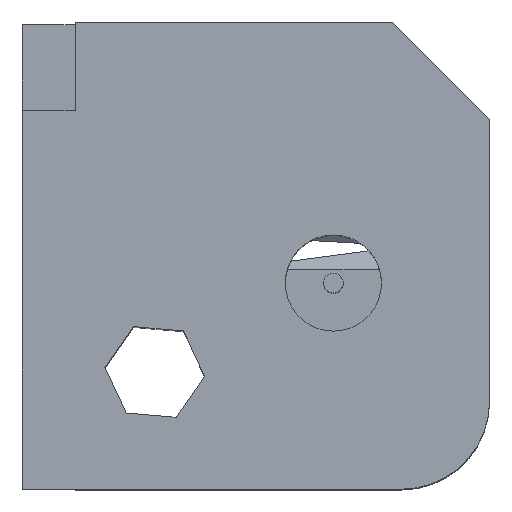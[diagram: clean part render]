
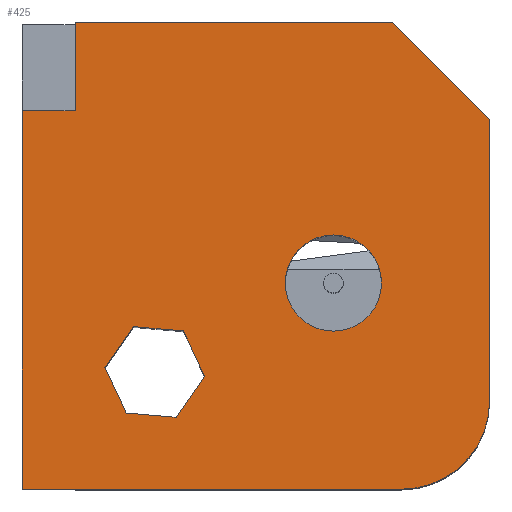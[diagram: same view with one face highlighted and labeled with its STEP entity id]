
A CAD part, top view. The second image highlights one B-rep face of the part: STEP entity #425.
In plain terms, the highlighted planar face has unit normal (0, 0, 1).
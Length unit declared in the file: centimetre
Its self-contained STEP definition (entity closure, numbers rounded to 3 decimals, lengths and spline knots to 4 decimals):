
#3 = VECTOR ( 'NONE', #1000, 100. ) ;
#19 = EDGE_CURVE ( 'NONE', #397, #1018, #978, .T. ) ;
#21 = CARTESIAN_POINT ( 'NONE',  ( 0., 1000., 1000. ) ) ;
#43 = DIRECTION ( 'NONE',  ( 0., 0., 1. ) ) ;
#68 = CARTESIAN_POINT ( 'NONE',  ( 390.1801, 241.7151, 1000. ) ) ;
#86 = EDGE_CURVE ( 'NONE', #826, #416, #1331, .T. ) ;
#101 = CARTESIAN_POINT ( 'NONE',  ( 112.8828, 810.3548, 1000. ) ) ;
#113 = VERTEX_POINT ( 'NONE', #1437 ) ;
#114 = ORIENTED_EDGE ( 'NONE', *, *, #636, .F. ) ;
#130 = CARTESIAN_POINT ( 'NONE',  ( 811.821, 188.179, 1000. ) ) ;
#133 = FACE_BOUND ( 'NONE', #831, .T. ) ;
#159 = VECTOR ( 'NONE', #1316, 100. ) ;
#207 = EDGE_CURVE ( 'NONE', #1464, #113, #1454, .T. ) ;
#215 = ORIENTED_EDGE ( 'NONE', *, *, #1132, .F. ) ;
#230 = DIRECTION ( 'NONE',  ( 1., 0., 0. ) ) ;
#253 = CARTESIAN_POINT ( 'NONE',  ( 176.7324, 260.0675, 1000. ) ) ;
#258 = LINE ( 'NONE', #1077, #159 ) ;
#268 = CARTESIAN_POINT ( 'NONE',  ( 222.1476, 163.0538, 1000. ) ) ;
#287 = VECTOR ( 'NONE', #1430, 100. ) ;
#302 = CARTESIAN_POINT ( 'NONE',  ( 895.9222, 895.9222, 1000. ) ) ;
#345 = VECTOR ( 'NONE', #967, 100. ) ;
#351 = DIRECTION ( 'NONE',  ( 1., 0., 0. ) ) ;
#369 = ORIENTED_EDGE ( 'NONE', *, *, #1317, .F. ) ;
#371 = DIRECTION ( 'NONE',  ( 1., 0., 0. ) ) ;
#378 = CARTESIAN_POINT ( 'NONE',  ( 791.8444, 1000., 1000. ) ) ;
#386 = EDGE_CURVE ( 'NONE', #802, #528, #1450, .T. ) ;
#397 = VERTEX_POINT ( 'NONE', #615 ) ;
#402 = CARTESIAN_POINT ( 'NONE',  ( 176.7324, 260.0675, 1000. ) ) ;
#403 = ORIENTED_EDGE ( 'NONE', *, *, #953, .F. ) ;
#416 = VERTEX_POINT ( 'NONE', #954 ) ;
#422 = CARTESIAN_POINT ( 'NONE',  ( 344.765, 338.7288, 1000. ) ) ;
#425 = ADVANCED_FACE ( 'NONE', ( #133, #741, #626 ), #829, .T. ) ;
#426 = AXIS2_PLACEMENT_3D ( 'NONE', #1093, #43, #230 ) ;
#460 = CARTESIAN_POINT ( 'NONE',  ( 112.8828, 810.3548, 1000. ) ) ;
#464 = ORIENTED_EDGE ( 'NONE', *, *, #1003, .F. ) ;
#475 = VECTOR ( 'NONE', #972, 100. ) ;
#484 = ORIENTED_EDGE ( 'NONE', *, *, #1217, .T. ) ;
#502 = LINE ( 'NONE', #268, #345 ) ;
#518 = AXIS2_PLACEMENT_3D ( 'NONE', #601, #1208, #371 ) ;
#528 = VERTEX_POINT ( 'NONE', #1017 ) ;
#538 = CARTESIAN_POINT ( 'NONE',  ( 328.8714, 153.8777, 1000. ) ) ;
#540 = CARTESIAN_POINT ( 'NONE',  ( 562.8035, 441.2446, 1000. ) ) ;
#550 = EDGE_CURVE ( 'NONE', #579, #802, #1357, .T. ) ;
#579 = VERTEX_POINT ( 'NONE', #1133 ) ;
#581 = EDGE_CURVE ( 'NONE', #1348, #1282, #1215, .T. ) ;
#583 = ORIENTED_EDGE ( 'NONE', *, *, #386, .T. ) ;
#584 = LINE ( 'NONE', #1256, #981 ) ;
#591 = DIRECTION ( 'NONE',  ( 1., 0., 0. ) ) ;
#601 = CARTESIAN_POINT ( 'NONE',  ( 665.713, 441.2446, 1000. ) ) ;
#608 = CARTESIAN_POINT ( 'NONE',  ( 0., 1000., 1000. ) ) ;
#610 = LINE ( 'NONE', #948, #1010 ) ;
#611 = VERTEX_POINT ( 'NONE', #422 ) ;
#615 = CARTESIAN_POINT ( 'NONE',  ( 768.6225, 441.2446, 1000. ) ) ;
#625 = LINE ( 'NONE', #1341, #1200 ) ;
#626 = FACE_BOUND ( 'NONE', #1057, .T. ) ;
#636 = EDGE_CURVE ( 'NONE', #826, #1171, #584, .T. ) ;
#661 = CIRCLE ( 'NONE', #518, 102.9095 ) ;
#673 = VERTEX_POINT ( 'NONE', #1502 ) ;
#682 = ORIENTED_EDGE ( 'NONE', *, *, #799, .F. ) ;
#688 = CARTESIAN_POINT ( 'NONE',  ( 665.713, 441.2446, 1000. ) ) ;
#735 = AXIS2_PLACEMENT_3D ( 'NONE', #688, #1152, #925 ) ;
#741 = FACE_OUTER_BOUND ( 'NONE', #878, .T. ) ;
#744 = VECTOR ( 'NONE', #1220, 100. ) ;
#750 = DIRECTION ( 'NONE',  ( 0.424, -0.906, 0. ) ) ;
#756 = DIRECTION ( 'NONE',  ( -0.572, -0.82, 0. ) ) ;
#766 = ORIENTED_EDGE ( 'NONE', *, *, #19, .F. ) ;
#782 = DIRECTION ( 'NONE',  ( -0.707, 0.707, 0. ) ) ;
#799 = EDGE_CURVE ( 'NONE', #1018, #397, #661, .T. ) ;
#802 = VERTEX_POINT ( 'NONE', #378 ) ;
#822 = ORIENTED_EDGE ( 'NONE', *, *, #1521, .F. ) ;
#826 = VERTEX_POINT ( 'NONE', #1308 ) ;
#829 = PLANE ( 'NONE',  #426 ) ;
#831 = EDGE_LOOP ( 'NONE', ( #766, #682 ) ) ;
#834 = DIRECTION ( 'NONE',  ( 1., 0., 0. ) ) ;
#839 = DIRECTION ( 'NONE',  ( -0.996, 0.086, 0. ) ) ;
#878 = EDGE_LOOP ( 'NONE', ( #215, #114, #1165, #484, #1298, #1419, #1382, #583 ) ) ;
#886 = CARTESIAN_POINT ( 'NONE',  ( 328.8714, 153.8777, 1000. ) ) ;
#892 = EDGE_CURVE ( 'NONE', #996, #1483, #1476, .T. ) ;
#907 = VECTOR ( 'NONE', #1254, 100. ) ;
#910 = LINE ( 'NONE', #460, #907 ) ;
#925 = DIRECTION ( 'NONE',  ( 1., 0., 0. ) ) ;
#948 = CARTESIAN_POINT ( 'NONE',  ( 344.765, 338.7288, 1000. ) ) ;
#952 = EDGE_CURVE ( 'NONE', #1483, #579, #258, .T. ) ;
#953 = EDGE_CURVE ( 'NONE', #1282, #1464, #502, .T. ) ;
#954 = CARTESIAN_POINT ( 'NONE',  ( 0., 0., 1000. ) ) ;
#967 = DIRECTION ( 'NONE',  ( 0.996, -0.086, 0. ) ) ;
#972 = DIRECTION ( 'NONE',  ( 0., -1., 0. ) ) ;
#978 = CIRCLE ( 'NONE', #735, 102.9095 ) ;
#981 = VECTOR ( 'NONE', #591, 100. ) ;
#996 = VERTEX_POINT ( 'NONE', #1244 ) ;
#1000 = DIRECTION ( 'NONE',  ( 0.572, 0.82, 0. ) ) ;
#1003 = EDGE_CURVE ( 'NONE', #673, #1348, #625, .T. ) ;
#1010 = VECTOR ( 'NONE', #839, 100. ) ;
#1017 = CARTESIAN_POINT ( 'NONE',  ( 112.8828, 1000., 1000. ) ) ;
#1018 = VERTEX_POINT ( 'NONE', #540 ) ;
#1033 = VECTOR ( 'NONE', #750, 100. ) ;
#1046 = CARTESIAN_POINT ( 'NONE',  ( 0., 0., 1000. ) ) ;
#1057 = EDGE_LOOP ( 'NONE', ( #822, #1466, #403, #1374, #464, #369 ) ) ;
#1077 = CARTESIAN_POINT ( 'NONE',  ( 1000., 1000., 1000. ) ) ;
#1085 = DIRECTION ( 'NONE',  ( 0., 0., 1. ) ) ;
#1093 = CARTESIAN_POINT ( 'NONE',  ( 0., 0., 1000. ) ) ;
#1100 = AXIS2_PLACEMENT_3D ( 'NONE', #130, #1085, #834 ) ;
#1132 = EDGE_CURVE ( 'NONE', #1171, #528, #910, .T. ) ;
#1133 = CARTESIAN_POINT ( 'NONE',  ( 1000., 791.8444, 1000. ) ) ;
#1148 = VECTOR ( 'NONE', #782, 100. ) ;
#1152 = DIRECTION ( 'NONE',  ( 0., 0., 1. ) ) ;
#1165 = ORIENTED_EDGE ( 'NONE', *, *, #86, .T. ) ;
#1171 = VERTEX_POINT ( 'NONE', #101 ) ;
#1200 = VECTOR ( 'NONE', #756, 100. ) ;
#1202 = VECTOR ( 'NONE', #351, 100. ) ;
#1208 = DIRECTION ( 'NONE',  ( 0., 0., 1. ) ) ;
#1215 = LINE ( 'NONE', #402, #1033 ) ;
#1217 = EDGE_CURVE ( 'NONE', #416, #996, #1517, .T. ) ;
#1220 = DIRECTION ( 'NONE',  ( -0.424, 0.906, 0. ) ) ;
#1244 = CARTESIAN_POINT ( 'NONE',  ( 811.821, 0., 1000. ) ) ;
#1254 = DIRECTION ( 'NONE',  ( 0., 1., 0. ) ) ;
#1256 = CARTESIAN_POINT ( 'NONE',  ( 0., 810.3548, 1000. ) ) ;
#1282 = VERTEX_POINT ( 'NONE', #1306 ) ;
#1298 = ORIENTED_EDGE ( 'NONE', *, *, #892, .T. ) ;
#1306 = CARTESIAN_POINT ( 'NONE',  ( 222.1476, 163.0538, 1000. ) ) ;
#1308 = CARTESIAN_POINT ( 'NONE',  ( 0., 810.3548, 1000. ) ) ;
#1316 = DIRECTION ( 'NONE',  ( 0., 1., 0. ) ) ;
#1317 = EDGE_CURVE ( 'NONE', #611, #673, #610, .T. ) ;
#1331 = LINE ( 'NONE', #608, #475 ) ;
#1335 = LINE ( 'NONE', #68, #744 ) ;
#1341 = CARTESIAN_POINT ( 'NONE',  ( 238.0412, 347.905, 1000. ) ) ;
#1348 = VERTEX_POINT ( 'NONE', #253 ) ;
#1354 = CARTESIAN_POINT ( 'NONE',  ( 1000., 188.179, 1000. ) ) ;
#1357 = LINE ( 'NONE', #302, #1148 ) ;
#1374 = ORIENTED_EDGE ( 'NONE', *, *, #581, .F. ) ;
#1382 = ORIENTED_EDGE ( 'NONE', *, *, #550, .T. ) ;
#1419 = ORIENTED_EDGE ( 'NONE', *, *, #952, .T. ) ;
#1430 = DIRECTION ( 'NONE',  ( -1., 0., 0. ) ) ;
#1437 = CARTESIAN_POINT ( 'NONE',  ( 390.1801, 241.7151, 1000. ) ) ;
#1450 = LINE ( 'NONE', #21, #287 ) ;
#1454 = LINE ( 'NONE', #538, #3 ) ;
#1464 = VERTEX_POINT ( 'NONE', #886 ) ;
#1466 = ORIENTED_EDGE ( 'NONE', *, *, #207, .F. ) ;
#1476 = CIRCLE ( 'NONE', #1100, 188.179 ) ;
#1483 = VERTEX_POINT ( 'NONE', #1354 ) ;
#1502 = CARTESIAN_POINT ( 'NONE',  ( 238.0412, 347.905, 1000. ) ) ;
#1517 = LINE ( 'NONE', #1046, #1202 ) ;
#1521 = EDGE_CURVE ( 'NONE', #113, #611, #1335, .T. ) ;
